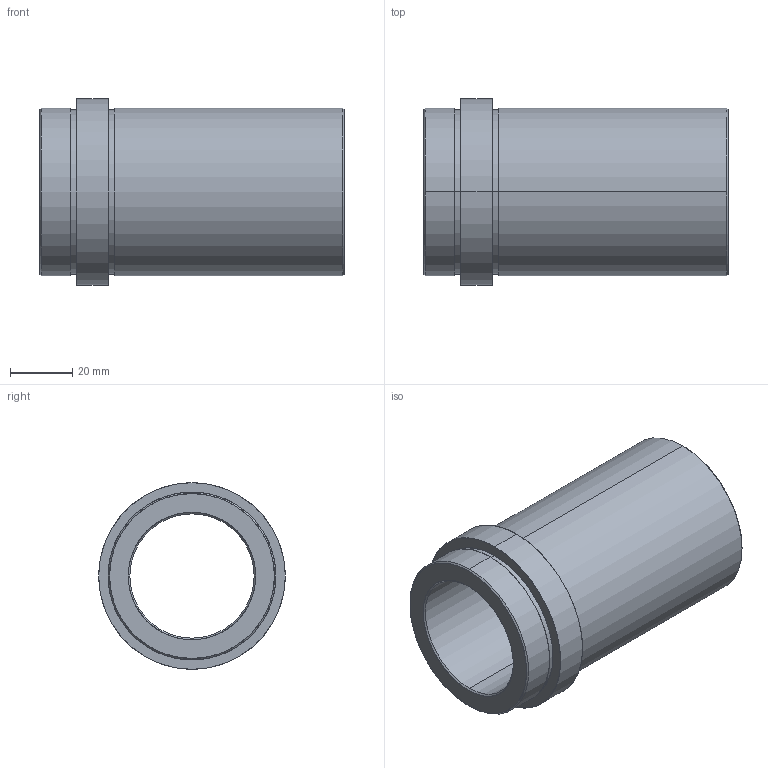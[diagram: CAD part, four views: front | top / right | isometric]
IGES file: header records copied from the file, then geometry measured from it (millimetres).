
Start section: SolidWorks IGES FILE using analytic representation for surfaces
Global section: file name: D:\zzzzz\Delta\D21\40\D21 - 40x86.IGS; native system: SolidWorks 2004 by SolidWorks Corporation; preprocessor: Version 5.3; author: Hkn; date: 080326.193402; units: millimetre
Bounding box: 98 x 60 x 60 mm (x, y, z)
Surface area: 32421 mm2 (no closed solid volume)
Topology: 0 solids, 0 shells, 26 faces, 848 edges, 848 vertices
Faces by surface type: revolution 20, bspline 6
